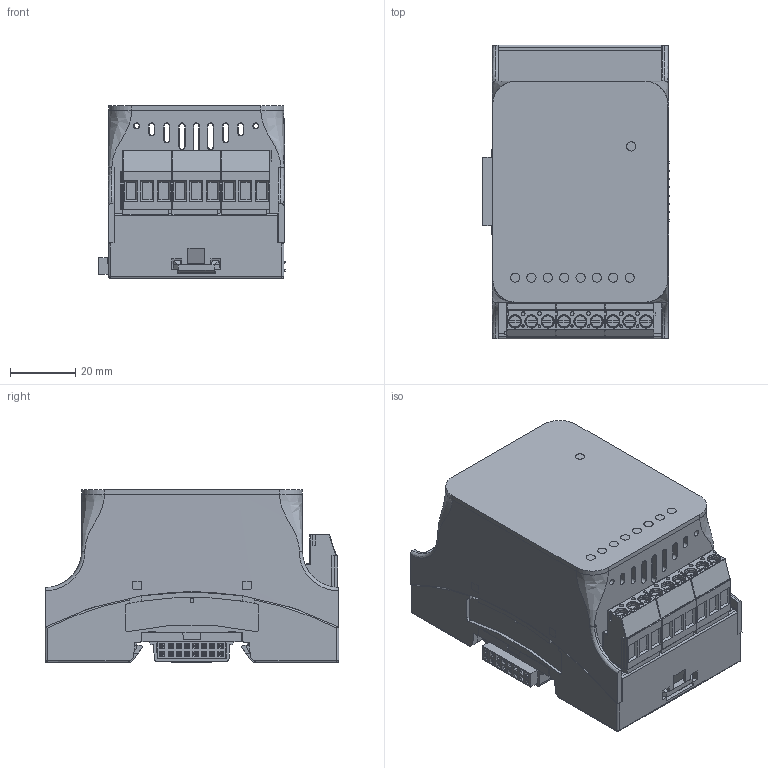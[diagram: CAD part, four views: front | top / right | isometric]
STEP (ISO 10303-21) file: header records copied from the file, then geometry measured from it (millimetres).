
FILE_DESCRIPTION(/* description */ (''),/* implementation_level */ '2;1');
FILE_NAME(/* name */ 'D:\WorkIMT\Project IMT\МВВ\v1\3D на сайт\8DI.stp',/* time_stamp */ '2026-06-09T08:43:05+03:00',/* author */ ('admin'),/* organization */ (''),/* preprocessor_version */ 'ST-DEVELOPER v17.2',/* originating_system */ 'Autodesk Inventor 2019',/* authorisation */ '');
FILE_SCHEMA (('AUTOMOTIVE_DESIGN { 1 0 10303 214 3 1 1 }'));
Products named in the file (1): MT.GARA-DIN.8DI.220V.XX.XX 2
Bounding box: 57.13 x 89.74 x 52.89 mm (x, y, z)
Volume: 60825.4 mm3; surface area: 71110.7 mm2
Topology: 1 solids, 42 shells, 5210 faces, 14294 edges, 9182 vertices
Faces by surface type: plane 4380, cylinder 361, bspline 202, cone 172, torus 68, sphere 27
Full cylindrical faces by diameter (mm): 0.2 x4, 0.3 x1, 1.2 x18, 1.8 x4, 2.2 x8, 4.05 x9
Entity records: 179843 total; most frequent: CARTESIAN_POINT 43903, ORIENTED_EDGE 28530, DIRECTION 25137, EDGE_CURVE 14265, LINE 12035, VECTOR 12035, VERTEX_POINT 9182, AXIS2_PLACEMENT_3D 6551
